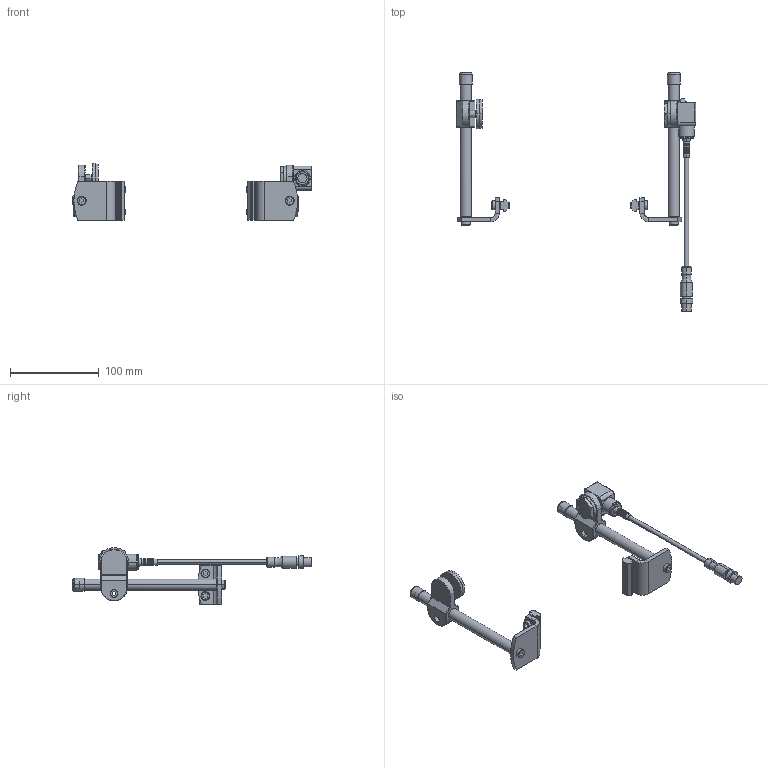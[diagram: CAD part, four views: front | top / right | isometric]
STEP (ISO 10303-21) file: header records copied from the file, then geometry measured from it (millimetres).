
FILE_DESCRIPTION((''),'2;1');
FILE_NAME('75M-PE_ASM','2016-11-02T',('jenni.wallner'),(''),'PRO/ENGINEER BY PARAMETRIC TECHNOLOGY CORPORATION, 2012420','PRO/ENGINEER BY PARAMETRIC TECHNOLOGY CORPORATION, 2012420','');
FILE_SCHEMA(('CONFIG_CONTROL_DESIGN'));
Length unit declared in the file: inch
Products named in the file (13): 202004M; 202027M; 920692M; 920693M; 200830M; 807-948; 807-1390; 807-1391; 809-315; 809-289; 201108_ASM; 75M-PE-2_ASM; 75M-PE_ASM
Assembly tree (20 placements, depth 4):
  75M-PE_ASM
    75M-PE-2_ASM
      202004M  x2
      202027M  x2
      920692M  x2
      920693M  x4
      200830M  x2
      807-948  x2
      201108_ASM
        807-1390
        807-1391
        809-315
        809-289
Bounding box: 269.52 x 269.08 x 64.14 mm (x, y, z)
Volume: 142810.4 mm3; surface area: 68994.3 mm2
Topology: 19 solids, 27 shells, 536 faces, 1203 edges, 739 vertices
Faces by surface type: cylinder 223, plane 207, cone 44, bspline 30, torus 28, sphere 4
Entity records: 12775 total; most frequent: CARTESIAN_POINT 4019, DIRECTION 1888, ORIENTED_EDGE 1650, EDGE_CURVE 835, AXIS2_PLACEMENT_3D 747, VERTEX_POINT 506, EDGE_LOOP 429, VECTOR 394
